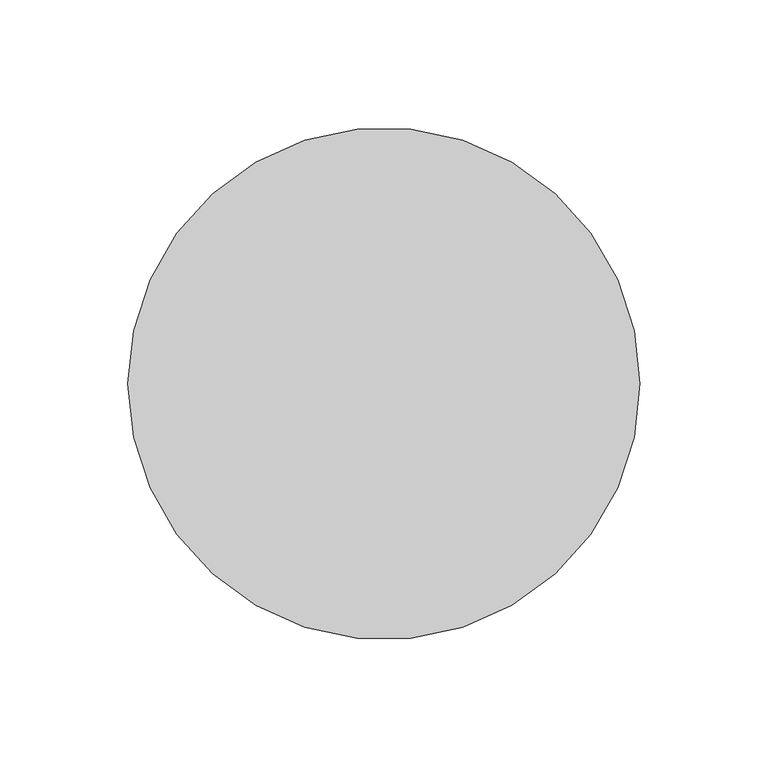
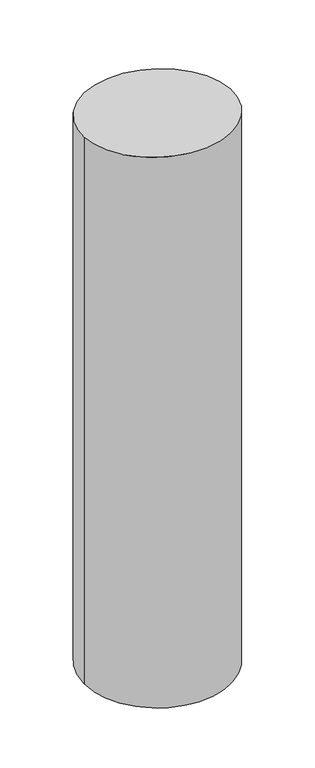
"""IFC4 building model written with IfcOpenShell, lengths in millimetres: member geometry, 矩形竖梃 : 圆瓦."""

import ifcopenshell
import ifcopenshell.guid

model = None  # the IFC model being written
_history = None  # IfcOwnerHistory: only IFC2X3 demands one
_inside = {}  # id of a spatial element -> (the spatial element, [elements in it])
_under = {}  # id of a project, library or spatial element -> (it, [spatial elements below it])
_declared = {}  # id of a project -> (the project, [libraries it declares])
_typed = {}  # id of a type object -> (the type object, [elements of that type])
_made_of = {}  # id of a material, layer set ... -> (it, [elements and type objects made of it])


def new_model(schema):
    """Start an empty IFC model of exactly this schema.

    Asked for "IFC4X3", IfcOpenShell would pick the latest addendum, in which some entities
    have other attributes; the version numbers below select the first issue.
    IFC2X3 requires an IfcOwnerHistory on every rooted entity: one is made here for all.
    """
    global model, _history
    if schema == "IFC4X3":
        model = ifcopenshell.file(schema_version=(4, 3, 0, 0))
    else:
        model = ifcopenshell.file(schema=schema)
    _inside.clear()
    _under.clear()
    _declared.clear()
    _typed.clear()
    _made_of.clear()
    _history = None
    if model.schema == "IFC2X3":
        org = make("IfcOrganization", Name="unknown")
        user = make(
            "IfcPersonAndOrganization",
            ThePerson=make("IfcPerson", FamilyName="unknown"),
            TheOrganization=org,
        )
        app = make(
            "IfcApplication",
            ApplicationDeveloper=org,
            Version="unknown",
            ApplicationFullName="unknown",
            ApplicationIdentifier="unknown",
        )
        _history = make(
            "IfcOwnerHistory",
            OwningUser=user,
            OwningApplication=app,
            ChangeAction="ADDED",
            CreationDate=0,
        )
    return model


def make(cls, **values):
    """One entity of the class cls with the attributes given. An attribute that is None is left unset."""
    return model.create_entity(
        cls, **{name: value for name, value in values.items() if value is not None}
    )


def rooted(cls, **values):
    """An entity with a GlobalId (a new one), such as an element, a storey or a relation."""
    return make(cls, GlobalId=ifcopenshell.guid.new(), OwnerHistory=_history, **values)


def si_unit(unit_type, name, prefix=None):
    """IfcSIUnit, for example si_unit("LENGTHUNIT", "METRE", prefix="MILLI")."""
    return make("IfcSIUnit", UnitType=unit_type, Prefix=prefix, Name=name)


def assignment(units):
    """IfcUnitAssignment: the units of a project."""
    return None if units is None else make("IfcUnitAssignment", Units=units)


def point(xyz):
    """IfcCartesianPoint."""
    return None if xyz is None else make("IfcCartesianPoint", Coordinates=xyz)


def direction(xyz):
    """IfcDirection."""
    return None if xyz is None else make("IfcDirection", DirectionRatios=xyz)


def frame(location, z_axis=None, x_axis=None):
    """IfcAxis2Placement3D, a coordinate frame: its origin and axes. An axis left out is left unset."""
    return make(
        "IfcAxis2Placement3D",
        Location=point(location),
        Axis=direction(z_axis),
        RefDirection=direction(x_axis),
    )


def origin():
    """The frame at (0, 0, 0) with its axes left unset."""
    return frame((0.0, 0.0, 0.0))


def origin_with_axes():
    """The frame at (0, 0, 0) with the z axis (0, 0, 1) and the x axis (1, 0, 0) written out."""
    return frame((0.0, 0.0, 0.0), z_axis=(0.0, 0.0, 1.0), x_axis=(1.0, 0.0, 0.0))


def place(relative_to, where):
    """IfcLocalPlacement: puts the frame where relative to a parent placement (None: the world)."""
    return make(
        "IfcLocalPlacement", PlacementRelTo=relative_to, RelativePlacement=where
    )


def context(
    kind, dimensions, precision=None, world=None, true_north=None, identifier=None
):
    """IfcGeometricRepresentationContext, for example the 3D "Model" context."""
    return make(
        "IfcGeometricRepresentationContext",
        ContextIdentifier=identifier,
        ContextType=kind,
        CoordinateSpaceDimension=dimensions,
        Precision=precision,
        WorldCoordinateSystem=world,
        TrueNorth=true_north,
    )


def project(units=None, contexts=None):
    """IfcProject with its units and contexts."""
    return rooted(
        "IfcProject",
        Name="project",
        RepresentationContexts=contexts,
        UnitsInContext=assignment(units),
    )


def spatial(cls, under=None, at=None, **own):
    """A site, building, storey or space (cls), placed at a placement, below another one or the project."""
    s = rooted(cls, ObjectPlacement=at, **own)
    if under is not None:
        _under.setdefault(under.id(), (under, []))[1].append(s)
    return s


def circle_curve(where, radius):
    """IfcCircle in the frame where."""
    return make("IfcCircle", Position=where, Radius=radius)


def ellipse_curve(where, semi_axis1, semi_axis2):
    """IfcEllipse in the frame where."""
    return make(
        "IfcEllipse", Position=where, SemiAxis1=semi_axis1, SemiAxis2=semi_axis2
    )


def shape(context_of_items, identifier, shape_type, items):
    """IfcShapeRepresentation: the items that make up one representation, for example the "Body"."""
    return make(
        "IfcShapeRepresentation",
        ContextOfItems=context_of_items,
        RepresentationIdentifier=identifier,
        RepresentationType=shape_type,
        Items=items,
    )


def source(mapping_origin, context_of_items, identifier, shape_type, items):
    """IfcRepresentationMap: a shape defined once, which mapped items show again and again."""
    return make(
        "IfcRepresentationMap",
        MappingOrigin=mapping_origin,
        MappedRepresentation=shape(context_of_items, identifier, shape_type, items),
    )


def transform(
    local_origin,
    x_axis=None,
    y_axis=None,
    z_axis=None,
    scale=None,
    scale2=None,
    scale3=None,
    uniform=True,
):
    """IfcCartesianTransformationOperator3D, or its non-uniform kind. x_axis, y_axis, z_axis: its Axis1, 2, 3."""
    if uniform:
        return make(
            "IfcCartesianTransformationOperator3D",
            Axis1=direction(x_axis),
            Axis2=direction(y_axis),
            LocalOrigin=point(local_origin),
            Scale=scale,
            Axis3=direction(z_axis),
        )
    return make(
        "IfcCartesianTransformationOperator3DnonUniform",
        Axis1=direction(x_axis),
        Axis2=direction(y_axis),
        LocalOrigin=point(local_origin),
        Scale=scale,
        Axis3=direction(z_axis),
        Scale2=scale2,
        Scale3=scale3,
    )


def mapped(mapping_source, mapping_target):
    """IfcMappedItem: shows the shape of a source again, moved by a transform."""
    return make(
        "IfcMappedItem", MappingSource=mapping_source, MappingTarget=mapping_target
    )


def made_of(thing, what):
    """Note that an element or type object is made of a material, layer set ...; save() writes the relation."""
    if what is not None:
        _made_of.setdefault(what.id(), (what, []))[1].append(thing)
    return thing


def element(
    cls,
    number,
    at=None,
    inside=None,
    cuts=None,
    type_object=None,
    material=None,
    context=None,
    identifier="Body",
    shape_type=None,
    held_by="IfcProductDefinitionShape",
    body=None,
    shapes=None,
    **own,
):
    """One element of the class cls, such as IfcWall. Its Tag is "e" and its number.

    at: its placement. inside: the storey or other place that contains it. cuts: it is an
    opening in that element (IfcRelVoidsElement). A single representation is given by context,
    identifier, shape_type and body (its items); several are given by shapes. held_by: the class
    of the entity that holds the representations. save() writes the other relations.
    """
    e = rooted(cls, Tag="e%d" % number, ObjectPlacement=at, **own)
    if body is not None:
        shapes = [shape(context, identifier, shape_type, body)]
    if shapes is not None:
        e.Representation = make(held_by, Representations=shapes)
    if inside is not None:
        _inside.setdefault(inside.id(), (inside, []))[1].append(e)
    if cuts is not None:
        rooted(
            "IfcRelVoidsElement", RelatingBuildingElement=cuts, RelatedOpeningElement=e
        )
    if type_object is not None:
        _typed.setdefault(type_object.id(), (type_object, []))[1].append(e)
    return made_of(e, material)


def aggregate(whole, parts):
    """IfcRelAggregates: a whole, such as a stair, and the parts it consists of."""
    return rooted("IfcRelAggregates", RelatingObject=whole, RelatedObjects=parts)


def save(model, path):
    """Write the relations noted so far, then the file.

    IfcRelAggregates (storeys below a building ...), IfcRelContainedInSpatialStructure (elements
    in a storey), IfcRelDefinesByType, IfcRelAssociatesMaterial and IfcRelDeclares: one each for
    every whole, place, type object, material and project.
    """
    for whole, parts in _under.values():
        aggregate(whole, parts)
    for where, things in _inside.values():
        rooted(
            "IfcRelContainedInSpatialStructure",
            RelatedElements=things,
            RelatingStructure=where,
        )
    for kind, things in _typed.values():
        rooted("IfcRelDefinesByType", RelatedObjects=things, RelatingType=kind)
    for what, things in _made_of.values():
        rooted("IfcRelAssociatesMaterial", RelatedObjects=things, RelatingMaterial=what)
    for by, libraries in _declared.values():
        rooted("IfcRelDeclares", RelatingContext=by, RelatedDefinitions=libraries)
    model.write(path)


def plane_surface(at):
    """IfcPlane: the flat surface through the origin of the frame at, square to its z axis."""
    return make("IfcPlane", Position=at)


def cylinder_surface(at, radius):
    """IfcCylindricalSurface: all points at the distance radius from the z axis of the frame at."""
    return make("IfcCylindricalSurface", Position=at, Radius=radius)


def advanced_brep(points, edges, surfaces, faces):
    """IfcAdvancedBrep: a solid bounded by faces that lie on surfaces and meet in shared edges.

    An edge is (start, end): straight between two places in points (the first is 0);
    or (start, end, curve); or (start, end, curve, False) where it runs against its curve.
    A face is (place in surfaces, loops), or (place, loops, False) where it looks against
    its surface's normal. A loop lists edges by number (the first is 1), with a minus sign
    where the edge is run from its end to its start. The first loop is the outer one.
    """
    corners = [point(p) for p in points]
    vertices = [make("IfcVertexPoint", VertexGeometry=c) for c in corners]
    made = []
    for start, end, *more in edges:
        made.append(
            make(
                "IfcEdgeCurve",
                EdgeStart=vertices[start],
                EdgeEnd=vertices[end],
                EdgeGeometry=more[0] if more else make("IfcPolyline", Points=[corners[start], corners[end]]),
                SameSense=more[1] if len(more) > 1 else True,
            )
        )
    hull = []
    for where, loops, *sense in faces:
        bounds = []
        for j, loop in enumerate(loops):
            ring = [make("IfcOrientedEdge", EdgeElement=made[abs(k) - 1], Orientation=k > 0) for k in loop]
            bounds.append(
                make(
                    "IfcFaceOuterBound" if j == 0 else "IfcFaceBound",
                    Bound=make("IfcEdgeLoop", EdgeList=ring),
                    Orientation=True,
                )
            )
        hull.append(make("IfcAdvancedFace", Bounds=bounds, FaceSurface=surfaces[where], SameSense=sense[0] if sense else True))
    return make("IfcAdvancedBrep", Outer=make("IfcClosedShell", CfsFaces=hull))


def member_5a0915c5(model_context):
    return source(origin(), model_context, "Body", "AdvancedBrep", [
        advanced_brep(
        [(100.0, 0.0, -790.1124317), (-100.0, 0.0, -790.1124317), (-100.0, 0.0, 0.0), (100.0, 0.0, 0.0)],
        [
            (0, 1, circle_curve(frame((0.0, 0.0, -790.1124317), z_axis=(0.0, 0.0, -1.0), x_axis=(1.0, 0.0, 0.0)), 100.0)),
            (1, 0, circle_curve(frame((0.0, 0.0, -790.1124317), z_axis=(0.0, 0.0, -1.0), x_axis=(1.0, 0.0, 0.0)), 100.0)),
            (2, 3, ellipse_curve(frame((0.0, 0.0, 0.0), z_axis=(0.0, -0.0676727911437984, -0.9977075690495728), x_axis=(0.0, -0.9977075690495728, 0.06767279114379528)), 100.2297698, 100.0)),
            (3, 0),
            (1, 2),
            (3, 2, ellipse_curve(frame((0.0, 0.0, 0.0), z_axis=(0.0, -0.0676727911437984, -0.9977075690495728), x_axis=(0.0, -0.9977075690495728, 0.06767279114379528)), 100.2297698, 100.0)),
        ],
        [
            plane_surface(frame((0.0, -100.0, -790.1124317), z_axis=(0.0, 0.0, -1.0), x_axis=(-1.0, 0.0, 0.0))),
            cylinder_surface(origin_with_axes(), 100.0),
            plane_surface(frame((-304.8, 0.0, 0.0), z_axis=(0.0, 0.0676727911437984, 0.9977075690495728), x_axis=(0.0, 0.9977075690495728, -0.0676727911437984))),
        ],
        [
            (0, [[1, 2]]),
            (1, [[3, 4, -2, 5]]),
            (1, [[6, -5, -1, -4]]),
            (2, [[-3, -6]]),
        ],
    ),
    ])


if __name__ == "__main__":
    model = new_model("IFC4")
    model_context = context("Model", 3, world=origin())
    ifc_project = project(units=[si_unit("LENGTHUNIT", "METRE", prefix="MILLI")], contexts=[model_context])
    site = spatial("IfcSite", under=ifc_project)
    building = spatial("IfcBuilding", under=site)
    placement = place(None, origin())
    member_shape = member_5a0915c5(model_context)
    element("IfcMember", 1, ObjectType="矩形竖梃 : 圆瓦", at=placement, inside=building, context=model_context, shape_type="MappedRepresentation", body=[
        mapped(member_shape, transform((0.0, 0.0, 0.0), x_axis=(1.0, 0.0, 0.0), y_axis=(0.0, 1.0, 0.0), z_axis=(0.0, 0.0, 1.0))),
    ])
    save(model, "model.ifc")
